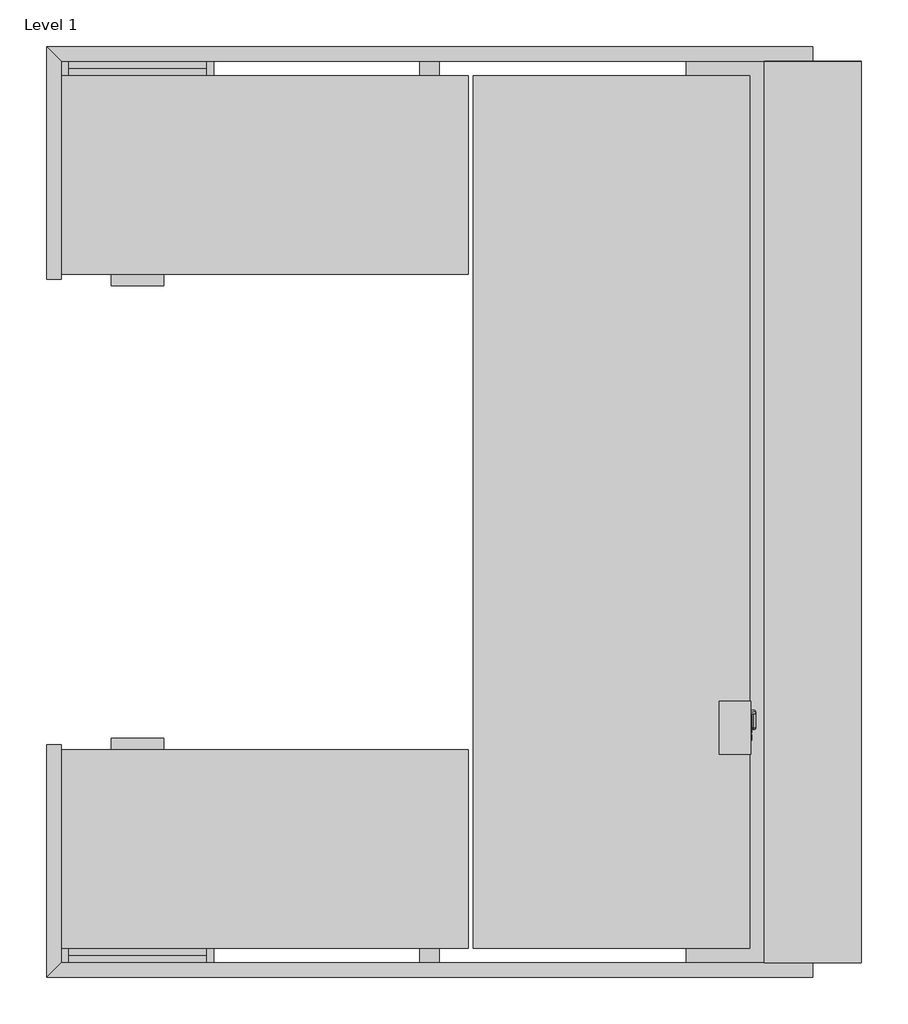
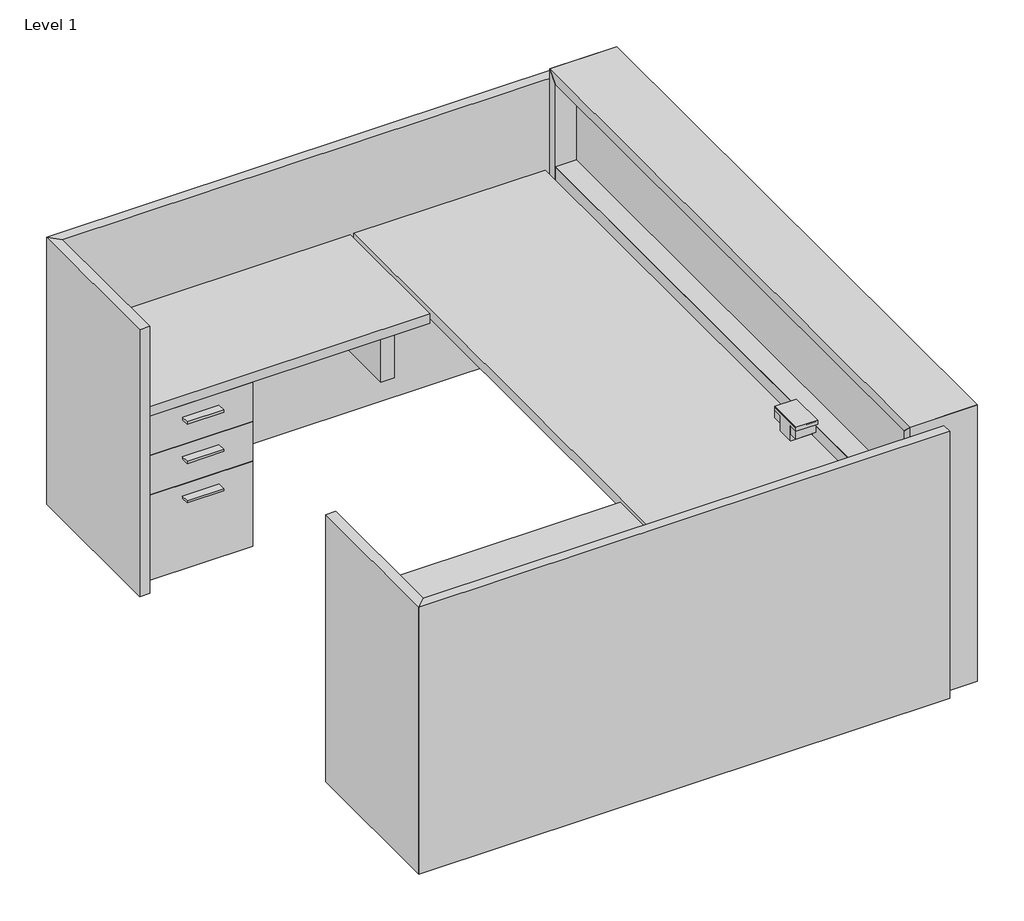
# One storey, incomplete: 17 proxies.
"""IFC4 building model written with IfcOpenShell, lengths in millimetres."""

from ifc_helpers import new_model, si_unit, origin, place, context, project, spatial, transform, mapped, element, save
from components import generic_models_81629c69, generic_models_489af210, generic_models_e249cb2d, generic_models_29dc5ad5, generic_models_abc72f08, generic_models_948baabf, generic_models_b5881524, generic_models_5573d24b, generic_models_0a960df9, generic_models_19edf8a9, generic_models_309273ef, generic_models_cc7c4e7e, generic_models_5073ac66, cantilever_bracket_10x18x_5_fb91e7c7

model = new_model("IFC4")

# Units and contexts
model_context = context("Model", 3, world=origin())
ifc_project = project(units=[si_unit("LENGTHUNIT", "METRE", prefix="MILLI")], contexts=[model_context])

# Site, building, storey
site = spatial("IfcSite", under=ifc_project)
building = spatial("IfcBuilding", under=site)
storey = spatial("IfcBuildingStorey", under=building, Name="Level 1", Elevation=0.0)

# Proxies
placement = place(None, origin())
generic_models_shape = generic_models_81629c69(model_context)
element("IfcBuildingElementProxy", 1, Name="FOUNDATION^OPEN OFFICE 1_12.94x89.94-TACKBOARD", ObjectType="FOUNDATION^OPEN OFFICE 1_12.94x89.94-TACKBOARD", at=placement, inside=storey, context=model_context, shape_type="MappedRepresentation", body=[
    mapped(generic_models_shape, transform((79.375, -2323.30625, 737.39375), x_axis=(0.0, 1.0, 0.0), y_axis=(0.0, 0.0, 1.0), z_axis=(1.0, 0.0, 0.0))),
])
generic_models_2_shape = generic_models_489af210(model_context)
element("IfcBuildingElementProxy", 2, Name="FOUNDATION^OPEN OFFICE 1_42x79x24 LEFT GALLERY WALL-PARTS SOLID", ObjectType="FOUNDATION^OPEN OFFICE 1_42x79x24 LEFT GALLERY WALL-PARTS SOLID", at=placement, inside=storey, context=model_context, shape_type="MappedRepresentation", body=[
    mapped(generic_models_2_shape, transform((127.0, 0.0, 0.0), x_axis=(0.0, 1.0, 0.0), y_axis=(0.0, 0.0, 1.0), z_axis=(1.0, 0.0, 0.0))),
])
generic_models_3_shape = generic_models_e249cb2d(model_context)
element("IfcBuildingElementProxy", 3, Name="FOUNDATION^OPEN OFFICE 1_42x79x24 RIGHT GALLERY WALL-PARTS SOLID", ObjectType="FOUNDATION^OPEN OFFICE 1_42x79x24 RIGHT GALLERY WALL-PARTS SOLID", at=placement, inside=storey, context=model_context, shape_type="MappedRepresentation", body=[
    mapped(generic_models_3_shape, transform((127.0, -2400.3, 0.0), x_axis=(0.0, 1.0, 0.0), y_axis=(0.0, 0.0, 1.0), z_axis=(1.0, 0.0, 0.0))),
])
generic_models_4_shape = generic_models_29dc5ad5(model_context)
element("IfcBuildingElementProxy", 4, Name="FOUNDATION^PEDESTAL_PLINTH-14.25x19.63", ObjectType="FOUNDATION^PEDESTAL_PLINTH-14.25x19.63", at=placement, inside=storey, context=model_context, shape_type="MappedRepresentation", body=[
    mapped(generic_models_4_shape, transform((-1841.5, -498.475, 0.0), x_axis=(1.0, 0.0, 0.0), y_axis=(0.0, 0.0, 1.0), z_axis=(0.0, -1.0, 0.0))),
])
element("IfcBuildingElementProxy", 5, Name="FOUNDATION^PEDESTAL_PLINTH-14.25x19.63", ObjectType="FOUNDATION^PEDESTAL_PLINTH-14.25x19.63", at=placement, inside=storey, context=model_context, shape_type="MappedRepresentation", body=[
    mapped(generic_models_4_shape, transform((-1841.5, -2362.2, 0.0), x_axis=(1.0, 0.0, 0.0), y_axis=(0.0, 0.0, 1.0), z_axis=(0.0, -1.0, 0.0))),
])
generic_models_5_shape = generic_models_abc72f08(model_context)
element("IfcBuildingElementProxy", 6, Name="FOUNDATION^PEDESTAL_LETTER BBF 22D-SOLID ASSEMBLY", ObjectType="FOUNDATION^PEDESTAL_LETTER BBF 22D-SOLID ASSEMBLY", at=placement, inside=storey, context=model_context, shape_type="MappedRepresentation", body=[
    mapped(generic_models_5_shape, transform((-1841.5, 0.0, 38.1), x_axis=(1.0, 0.0, 0.0), y_axis=(0.0, 0.0, 1.0), z_axis=(0.0, -1.0, 0.0))),
])
generic_models_6_shape = generic_models_948baabf(model_context)
element("IfcBuildingElementProxy", 7, Name="FOUNDATION^PEDESTAL_LETTER FF 22D-SOLID ASSEMBLY", ObjectType="FOUNDATION^PEDESTAL_LETTER FF 22D-SOLID ASSEMBLY", at=placement, inside=storey, context=model_context, shape_type="MappedRepresentation", body=[
    mapped(generic_models_6_shape, transform((-1441.45, -2362.2, 38.1), x_axis=(-1.0, 0.0, 0.0), y_axis=(0.0, 0.0, 1.0), z_axis=(0.0, 1.0, 0.0))),
])
generic_models_7_shape = generic_models_b5881524(model_context)
element("IfcBuildingElementProxy", 8, Name="FOUNDATION^WORKSURFACES_FIXED RETURN TOP-42x20.5", ObjectType="FOUNDATION^WORKSURFACES_FIXED RETURN TOP-42x20.5", at=placement, inside=storey, context=model_context, shape_type="MappedRepresentation", body=[
    mapped(generic_models_7_shape, transform((-774.7, -1803.4, 698.5), x_axis=(-1.0, 0.0, 0.0), y_axis=(0.0, 0.0, 1.0), z_axis=(0.0, 1.0, 0.0))),
])
element("IfcBuildingElementProxy", 9, Name="FOUNDATION^WORKSURFACES_FIXED RETURN TOP-42x20.5", ObjectType="FOUNDATION^WORKSURFACES_FIXED RETURN TOP-42x20.5", at=placement, inside=storey, context=model_context, shape_type="MappedRepresentation", body=[
    mapped(generic_models_7_shape, transform((-1841.5, -558.8, 698.5), x_axis=(1.0, 0.0, 0.0), y_axis=(0.0, 0.0, 1.0), z_axis=(0.0, -1.0, 0.0))),
])
generic_models_8_shape = generic_models_5573d24b(model_context)
element("IfcBuildingElementProxy", 10, Name="FOUNDATION^WORKSURFACES_LIFT TOP-90x28.5", ObjectType="FOUNDATION^WORKSURFACES_LIFT TOP-90x28.5", at=placement, inside=storey, context=model_context, shape_type="MappedRepresentation", body=[
    mapped(generic_models_8_shape, transform((-38.1, -2324.1, 698.5), x_axis=(0.0, 1.0, 0.0), y_axis=(0.0, 0.0, 1.0), z_axis=(1.0, 0.0, 0.0))),
])
generic_models_9_shape = generic_models_0a960df9(model_context)
element("IfcBuildingElementProxy", 11, Name="H-MP-TUBE1", ObjectType="H-MP-TUBE1", at=placement, inside=storey, context=model_context, shape_type="MappedRepresentation", body=[
    mapped(generic_models_9_shape, transform((-161.3852, -1206.5, 139.7), x_axis=(1.0, 0.0, 0.0), y_axis=(0.0, 0.0, 1.0), z_axis=(0.0, -1.0, 0.0))),
])
generic_models_10_shape = generic_models_19edf8a9(model_context)
element("IfcBuildingElementProxy", 12, Name="FOUNDATION^OPEN OFFICE 1_43.5x93 FRONT TRANSACTION-PARTS SOLID", ObjectType="FOUNDATION^OPEN OFFICE 1_43.5x93 FRONT TRANSACTION-PARTS SOLID", at=placement, inside=storey, context=model_context, shape_type="MappedRepresentation", body=[
    mapped(generic_models_10_shape, transform((0.0, -2362.2, 0.0), x_axis=(0.0, 1.0, 0.0), y_axis=(0.0, 0.0, 1.0), z_axis=(1.0, 0.0, 0.0))),
])
generic_models_11_shape = generic_models_309273ef(model_context)
element("IfcBuildingElementProxy", 13, Name="CLAMP ON PWR WITH DATA", ObjectType="CLAMP ON PWR WITH DATA", at=placement, inside=storey, context=model_context, shape_type="MappedRepresentation", body=[
    mapped(generic_models_11_shape, transform((-48.7354302, -1641.856, 767.3594), x_axis=(0.0, -1.0, 0.0), y_axis=(0.0, 0.0, 1.0), z_axis=(-1.0, 0.0, 0.0))),
])
generic_models_12_shape = generic_models_cc7c4e7e(model_context)
element("IfcBuildingElementProxy", 14, Name="FOUNDATION^WORKSURFACES_OPEN OFFICE 1-59in", ObjectType="FOUNDATION^WORKSURFACES_OPEN OFFICE 1-59in", at=placement, inside=storey, context=model_context, shape_type="MappedRepresentation", body=[
    mapped(generic_models_12_shape, transform((-102.71628, -431.8, 647.7), x_axis=(0.0, -1.0, 0.0), y_axis=(0.0, 0.0, 1.0), z_axis=(-1.0, 0.0, 0.0))),
])
generic_models_13_shape = generic_models_5073ac66(model_context)
element("IfcBuildingElementProxy", 15, Name="FOUNDATION^OPEN OFFICE 1_12x29x93 WIRE WALL-PARTS SOLID", ObjectType="FOUNDATION^OPEN OFFICE 1_12x29x93 WIRE WALL-PARTS SOLID", at=placement, inside=storey, context=model_context, shape_type="MappedRepresentation", body=[
    mapped(generic_models_13_shape, transform((101.6, -38.1, 0.0), x_axis=(0.0, -1.0, 0.0), y_axis=(0.0, 0.0, 1.0), z_axis=(-1.0, 0.0, 0.0))),
])
cantilever_bracket_10x18x_5_shape = cantilever_bracket_10x18x_5_fb91e7c7(model_context)
element("IfcBuildingElementProxy", 16, Name="CANTILEVER BRACKET-10x18x.5", ObjectType="CANTILEVER BRACKET-10x18x.5", at=placement, inside=storey, context=model_context, shape_type="MappedRepresentation", body=[
    mapped(cantilever_bracket_10x18x_5_shape, transform((-901.7, -2362.2, 444.5), x_axis=(1.0, 0.0, 0.0), y_axis=(0.0, 0.0, 1.0), z_axis=(0.0, -1.0, 0.0))),
])
element("IfcBuildingElementProxy", 17, Name="CANTILEVER BRACKET-10x18x.5", ObjectType="CANTILEVER BRACKET-10x18x.5", at=placement, inside=storey, context=model_context, shape_type="MappedRepresentation", body=[
    mapped(cantilever_bracket_10x18x_5_shape, transform((-850.9, 0.0, 444.5), x_axis=(-1.0, 0.0, 0.0), y_axis=(0.0, 0.0, 1.0), z_axis=(0.0, 1.0, 0.0))),
])

save(model, "model.ifc")
